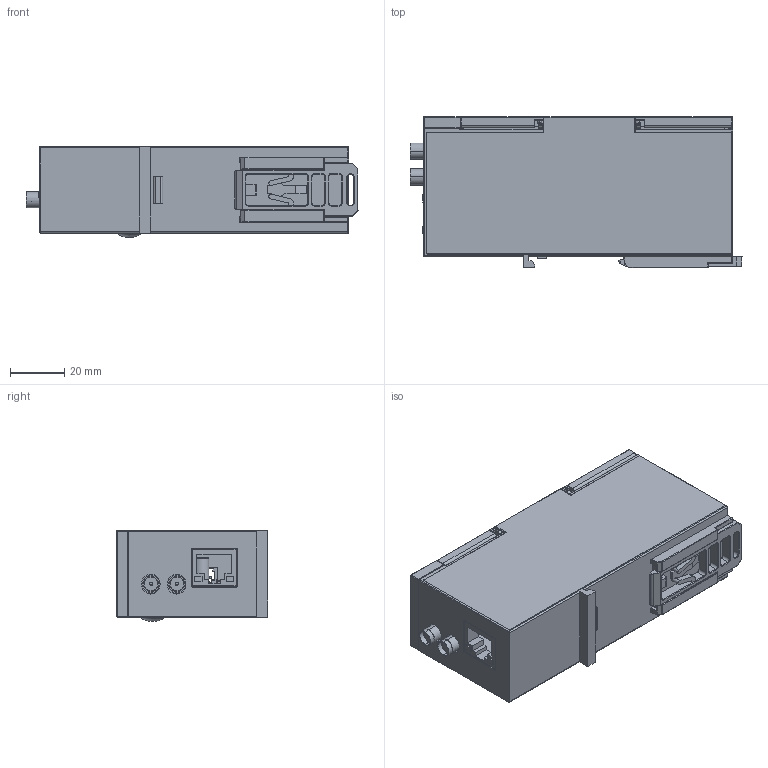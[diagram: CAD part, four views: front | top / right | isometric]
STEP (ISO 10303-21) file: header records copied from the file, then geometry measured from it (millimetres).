
FILE_DESCRIPTION((''),'2;1');
FILE_NAME('00-ICA415-02_ASM_ASM','2024-07-04T13:09:00',('Administrator'),(''),'CREO PARAMETRIC BY PTC INC, 2019080','CREO PARAMETRIC BY PTC INC, 2019080','');
FILE_SCHEMA(('CONFIG_CONTROL_DESIGN'));
Products named in the file (1): 00-ICA415-02_ASM_ASM
Bounding box: 122.6 x 55.85 x 33.63 mm (x, y, z)
Surface area: 67614.9 mm2 (no closed solid volume)
Topology: 0 solids, 0 shells, 3549 faces, 18113 edges, 18014 vertices
Faces by surface type: plane 2326, cylinder 772, torus 323, sphere 77, bspline 27, cone 24
Entity records: 234706 total; most frequent: CARTESIAN_POINT 53423, DIRECTION 34212, TRIMMED_CURVE 25217, VECTOR 23266, LINE 23266, DEFINITIONAL_REPRESENTATION 17915, PCURVE 17915, COMPOSITE_CURVE_SEGMENT 17915
